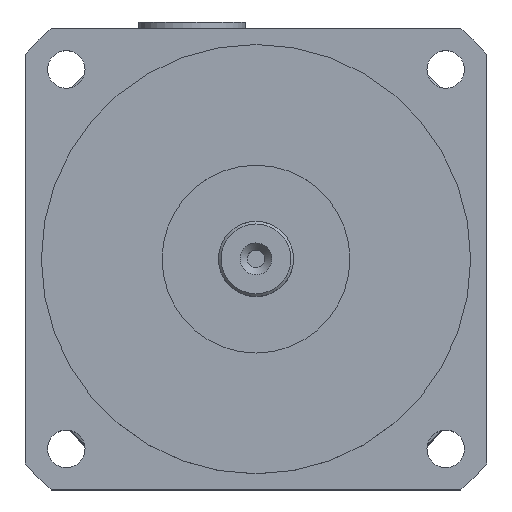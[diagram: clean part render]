
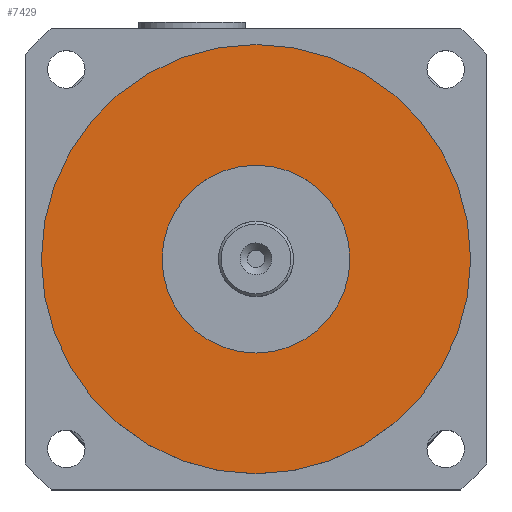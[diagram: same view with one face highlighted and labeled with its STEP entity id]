
A CAD part, top view. The second image highlights one B-rep face of the part: STEP entity #7429.
In plain terms, the highlighted planar face has unit normal (0, 0, 1).
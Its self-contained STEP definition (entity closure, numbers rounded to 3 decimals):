
#3003=VERTEX_POINT('',#11241);
#3004=VERTEX_POINT('',#11245);
#3517=CIRCLE('',#8032,17.5);
#3518=CIRCLE('',#8035,40.);
#3986=EDGE_CURVE('',#3003,#3003,#3517,.T.);
#3987=EDGE_CURVE('',#3004,#3004,#3518,.T.);
#5062=ORIENTED_EDGE('',*,*,#3987,.F.);
#5063=ORIENTED_EDGE('',*,*,#3986,.T.);
#6505=EDGE_LOOP('',(#5062));
#6506=EDGE_LOOP('',(#5063));
#6987=FACE_BOUND('',#6505,.T.);
#6988=FACE_BOUND('',#6506,.T.);
#7429=ADVANCED_FACE('',(#6987,#6988),#9152,.F.);
#8032=AXIS2_PLACEMENT_3D('',#11240,#14557,#14558);
#8035=AXIS2_PLACEMENT_3D('',#11244,#14562,#14563);
#8037=AXIS2_PLACEMENT_3D('',#11248,#14566,$);
#9152=PLANE('',#8037);
#11240=CARTESIAN_POINT('',(0.,0.,177.));
#11241=CARTESIAN_POINT('',(17.5,0.,177.));
#11244=CARTESIAN_POINT('',(0.,0.,177.));
#11245=CARTESIAN_POINT('',(40.,0.,177.));
#11248=CARTESIAN_POINT('',(0.,0.,177.));
#14557=DIRECTION('',(0.,0.,-1.));
#14558=DIRECTION('',(-17.5,0.,0.));
#14562=DIRECTION('',(0.,0.,-1.));
#14563=DIRECTION('',(-40.,0.,0.));
#14566=DIRECTION('',(0.,0.,-1.));
